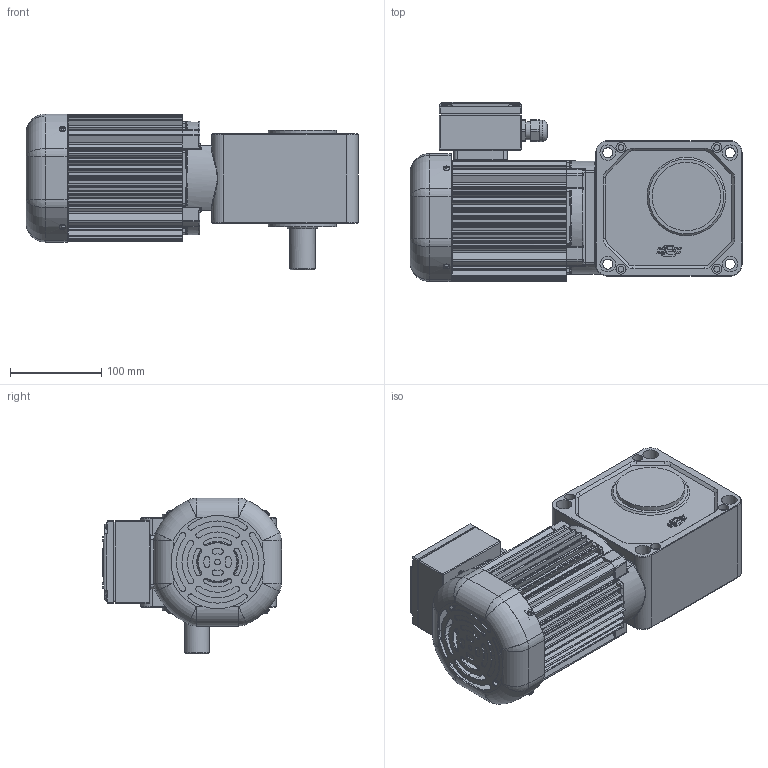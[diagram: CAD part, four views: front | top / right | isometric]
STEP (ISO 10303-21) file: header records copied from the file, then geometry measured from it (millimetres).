
FILE_DESCRIPTION(/* description */ (''),/* implementation_level */ '2;1');
FILE_NAME(/* name */ 'Z:\동력 3D 파일\PCS28R_0.4kW_3D.stp',/* time_stamp */ '2021-11-09T11:08:31+09:00',/* author */ ('jaebok'),/* organization */ (''),/* preprocessor_version */ 'ST-DEVELOPER v18.1',/* originating_system */ 'Autodesk Inventor 2022',/* authorisation */ '');
FILE_SCHEMA (('AUTOMOTIVE_DESIGN { 1 0 10303 214 3 1 1 }'));
Products named in the file (1): 부품47
Bounding box: 363.5 x 196 x 170.5 mm (x, y, z)
Volume: 2240464.4 mm3; surface area: 583930.1 mm2
Topology: 1 solids, 26 shells, 2006 faces, 5183 edges, 3267 vertices
Faces by surface type: plane 858, cylinder 742, torus 165, bspline 109, cone 100, sphere 32
Full cylindrical faces by diameter (mm): 3.242 x5, 3.25 x1, 3.5 x4, 3.6 x4, 4 x21, 5 x13, 5.386 x4, 6 x13, 6.5 x4, 6.647 x1, 7 x12, 8 x1, 10 x1, 11 x8, 12.5 x1, 15 x1, 17 x12, 18 x1, 20 x2, 21 x1, 23.6 x1, 25 x1, 28 x1, 30 x1, 31 x1, 35 x1, 40 x1, 44 x1, 50 x1, 50.562 x1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
Entity records: 67371 total; most frequent: CARTESIAN_POINT 15917, DIRECTION 10670, ORIENTED_EDGE 10252, EDGE_CURVE 5126, AXIS2_PLACEMENT_3D 4114, VERTEX_POINT 3267, LINE 2442, VECTOR 2442
